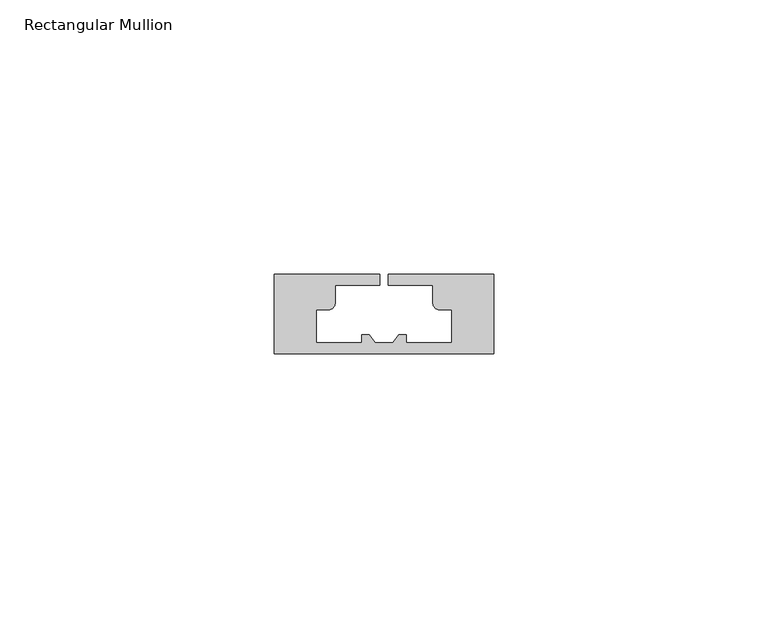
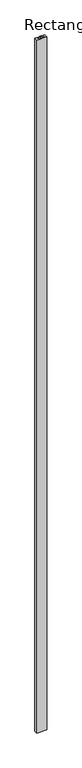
"""IFC4 building model written with IfcOpenShell, lengths in millimetres: member geometry, Rectangular Mullion : SD.014 - left_renson."""

from ifc_helpers import new_model, si_unit, point, frame, frame_2d, origin, place, context, project, spatial, polyline, circle_curve, trimmed, segment, composite_curve, outline, extrude, source, transform, mapped, element, save


def rectangular_mullion_2b84ad7e(model_context):
    return source(origin(), model_context, "Body", "SweptSolid", [
        extrude(outline(composite_curve([segment(polyline([(-90.0, -1.0), (-70.7528633, -1.0), (-70.7528633, -3.0), (-78.9220615, -3.0), (-78.9220615, -6.2788187)]), True, "CONTINUOUS"), segment(trimmed(circle_curve(frame_2d((-80.1231703, -6.2788187)), 1.2011087), [point((-78.9220615, -6.2788187))], [point((-80.1231703, -7.4799274))], False, "CARTESIAN"), True, "CONTINUOUS"), segment(polyline([(-80.1231703, -7.4799274), (-82.3724438, -7.4799274), (-82.3724438, -13.5), (-74.0479621, -13.5), (-74.0479621, -12.0), (-72.694768, -12.0), (-71.6049542, -13.5), (-68.3950458, -13.5), (-67.305232, -12.0), (-65.9520379, -12.0), (-65.9520379, -13.5), (-57.6275562, -13.5), (-57.6275562, -7.4799274), (-59.8768297, -7.4799274)]), True, "CONTINUOUS"), segment(trimmed(circle_curve(frame_2d((-59.8768297, -6.2788187)), 1.2011087), [point((-59.8768297, -7.4799274))], [point((-61.0779385, -6.2788187))], False, "CARTESIAN"), True, "CONTINUOUS"), segment(polyline([(-61.0779385, -6.2788187), (-61.0779385, -3.0), (-69.2471367, -3.0), (-69.2471367, -1.0), (-50.0, -1.0), (-50.0, -15.5), (-90.0, -15.5), (-90.0, -1.0)]), True, "CONTINUOUS")], self_intersect=False)), frame((0.0, 0.0, -3000.0), z_axis=(0.0, 0.0, 1.0), x_axis=(1.0, 0.0, 0.0)), (0.0, 0.0, 1.0), 3000.0),
    ])


if __name__ == "__main__":
    model = new_model("IFC4")
    model_context = context("Model", 3, world=origin())
    ifc_project = project(units=[si_unit("LENGTHUNIT", "METRE", prefix="MILLI")], contexts=[model_context])
    site = spatial("IfcSite", under=ifc_project)
    building = spatial("IfcBuilding", under=site)
    placement = place(None, origin())
    rectangular_mullion_shape = rectangular_mullion_2b84ad7e(model_context)
    element("IfcMember", 1, ObjectType="Rectangular Mullion : SD.014 - left_renson", at=placement, inside=building, context=model_context, shape_type="MappedRepresentation", body=[
        mapped(rectangular_mullion_shape, transform((0.0, 0.0, 0.0), x_axis=(1.0, 0.0, 0.0), y_axis=(0.0, 1.0, 0.0), z_axis=(0.0, 0.0, 1.0))),
    ])
    save(model, "model.ifc")
